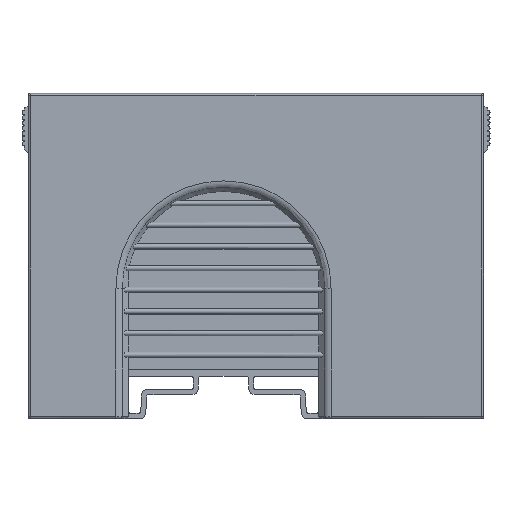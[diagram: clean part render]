
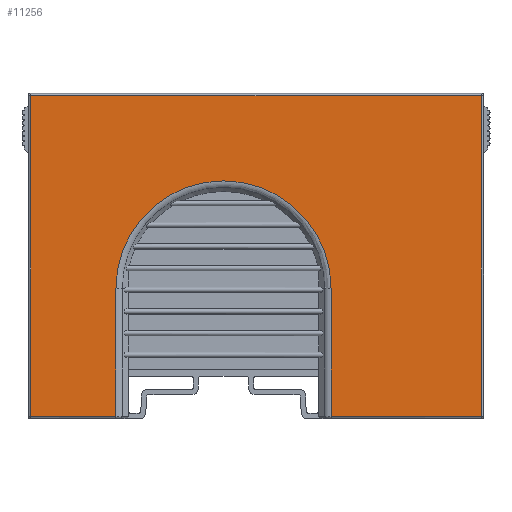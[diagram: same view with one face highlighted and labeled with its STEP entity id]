
A CAD part, top view. The second image highlights one B-rep face of the part: STEP entity #11256.
In plain terms, the highlighted planar face has unit normal (0, 0, 1).
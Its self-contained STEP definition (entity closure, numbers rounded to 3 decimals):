
#1451=CARTESIAN_POINT('',(104.5,0.5,4.5));
#1463=DIRECTION('',(1.,0.,0.));
#1464=VECTOR('',#1463,34.672);
#1465=CARTESIAN_POINT('',(69.828,0.5,4.5));
#1466=LINE('',#1465,#1464);
#2696=DIRECTION('',(1.,0.,0.));
#2697=VECTOR('',#2696,19.672);
#2698=CARTESIAN_POINT('',(0.5,0.5,
4.5));
#2699=LINE('',#2698,#2697);
#2730=CARTESIAN_POINT('',(45.,30.,4.5));
#2731=DIRECTION('',(0.,0.,1.));
#2732=DIRECTION('',(1.,0.,0.));
#2733=AXIS2_PLACEMENT_3D('',#2730,#2731,#2732);
#2765=DIRECTION('',(0.,-1.,0.));
#2766=VECTOR('',#2765,74.);
#2767=CARTESIAN_POINT('',(0.5,74.5,4.5));
#2768=LINE('',#2767,#2766);
#3607=DIRECTION('',(0.,1.,0.));
#3608=VECTOR('',#3607,74.);
#3609=CARTESIAN_POINT('',(104.5,0.5,4.5));
#3610=LINE('',#3609,#3608);
#3698=DIRECTION('',(-1.,0.,0.));
#3699=VECTOR('',#3698,104.);
#3700=CARTESIAN_POINT('',(104.5,74.5,4.5));
#3701=LINE('',#3700,#3699);
#5360=DIRECTION('',(0.,-1.,0.));
#5361=VECTOR('',#5360,29.5);
#5362=CARTESIAN_POINT('',(69.828,30.,4.5));
#5363=LINE('',#5362,#5361);
#6061=DIRECTION('',(0.,1.,0.));
#6062=VECTOR('',#6061,29.5);
#6063=CARTESIAN_POINT('',(20.172,0.5,4.5));
#6064=LINE('',#6063,#6062);
#7132=VERTEX_POINT('',#1451);
#7133=CARTESIAN_POINT('',(69.828,0.5,4.5));
#7134=VERTEX_POINT('',#7133);
#7322=CARTESIAN_POINT('',(20.172,0.5,4.5));
#7323=VERTEX_POINT('',#7322);
#7324=CARTESIAN_POINT('',(0.5,0.5,
4.5));
#7325=VERTEX_POINT('',#7324);
#7326=CARTESIAN_POINT('',(0.5,74.5,4.5));
#7327=VERTEX_POINT('',#7326);
#7328=CARTESIAN_POINT('',(104.5,74.5,4.5));
#7329=VERTEX_POINT('',#7328);
#7330=CARTESIAN_POINT('',(69.828,30.,4.5));
#7331=VERTEX_POINT('',#7330);
#7332=CARTESIAN_POINT('',(20.172,30.,4.5));
#7333=VERTEX_POINT('',#7332);
#11235=CARTESIAN_POINT('',(52.5,37.5,4.5));
#11236=DIRECTION('',(0.,0.,1.));
#11237=DIRECTION('',(1.,0.,0.));
#11238=AXIS2_PLACEMENT_3D('',#11235,#11236,#11237);
#11239=PLANE('',#11238);
#11240=ORIENTED_EDGE('',*,*,#11219,.F.);
#11242=ORIENTED_EDGE('',*,*,#11241,.F.);
#11244=ORIENTED_EDGE('',*,*,#11243,.F.);
#11246=ORIENTED_EDGE('',*,*,#11245,.F.);
#11247=ORIENTED_EDGE('',*,*,#9706,.F.);
#11249=ORIENTED_EDGE('',*,*,#11248,.F.);
#11251=ORIENTED_EDGE('',*,*,#11250,.T.);
#11253=ORIENTED_EDGE('',*,*,#11252,.F.);
#11254=EDGE_LOOP('',(#11240,#11242,#11244,#11246,#11247,#11249,#11251,#11253));
#11255=FACE_OUTER_BOUND('',#11254,.F.);
#2734=CIRCLE('',#2733,24.828);
#9706=EDGE_CURVE('',#7134,#7132,#1466,.T.);
#11219=EDGE_CURVE('',#7325,#7323,#2699,.T.);
#11241=EDGE_CURVE('',#7327,#7325,#2768,.T.);
#11243=EDGE_CURVE('',#7329,#7327,#3701,.T.);
#11245=EDGE_CURVE('',#7132,#7329,#3610,.T.);
#11248=EDGE_CURVE('',#7331,#7134,#5363,.T.);
#11250=EDGE_CURVE('',#7331,#7333,#2734,.T.);
#11252=EDGE_CURVE('',#7323,#7333,#6064,.T.);
#11256=ADVANCED_FACE('',(#11255),#11239,.T.);
